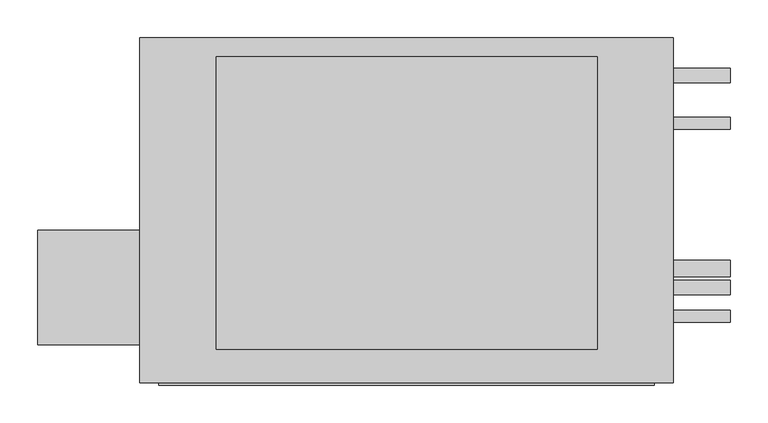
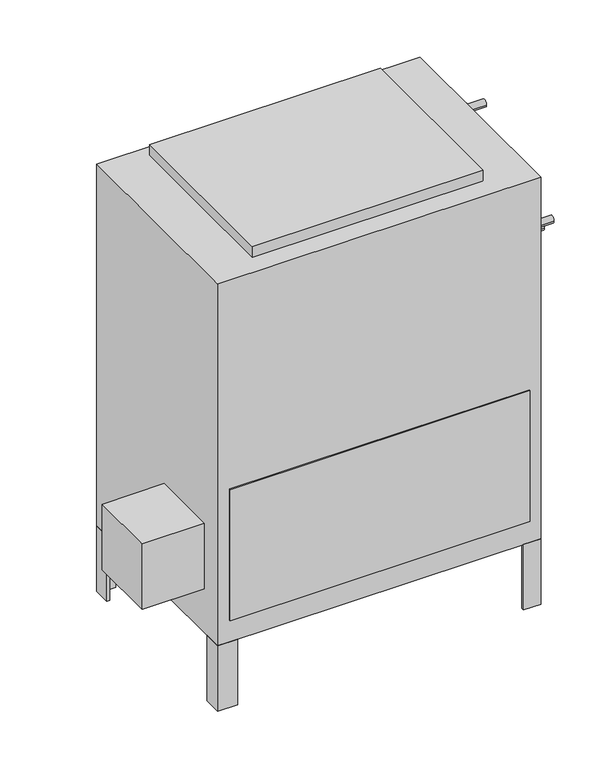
"""IFC4 building model written with IfcOpenShell, lengths in millimetres: proxy geometry, Concealed_High_Capacity_Vertical_Fan_Coil_Unit_-_42DDA_-_CARRIER_-_4-Pipe_RH_2022 : Size 08 - 277v/60Hz/1Ph - 4/2 Coil."""

from ifc_helpers import new_model, si_unit, point, frame, frame_2d, origin, origin_with_axes, place, context, project, spatial, polyline, circle_curve, trimmed, segment, composite_curve, outline, extrude, source, transform, mapped, element, save


def mechanical_equipment_4e46873f(model_context):
    return source(origin(), model_context, "Body", "SweptSolid", [
        extrude(outline(polyline([(-339.725, -417.5125), (-339.725, -265.1125), (-203.2, -265.1125), (-203.2, -417.5125), (-339.725, -417.5125)])), frame((0.0, 0.0, 101.6), z_axis=(0.0, 0.0, 1.0), x_axis=(1.0, 0.0, 0.0)), (0.0, 0.0, 1.0), 152.4),
        extrude(outline(polyline([(508.0, -46.0375), (501.65, -46.0375), (501.65, -14.2875), (469.9, -14.2875), (469.9, -7.9375), (508.0, -7.9375), (508.0, -46.0375)])), frame((0.0, 0.0, -152.4), z_axis=(0.0, 0.0, 1.0), x_axis=(1.0, 0.0, 0.0)), (0.0, 0.0, 1.0), 152.4),
        extrude(outline(polyline([(-165.1, -7.9375), (-165.1, -14.2875), (-196.85, -14.2875), (-196.85, -46.0375), (-203.2, -46.0375), (-203.2, -7.9375), (-165.1, -7.9375)])), frame((0.0, 0.0, -152.4), z_axis=(0.0, 0.0, 1.0), x_axis=(1.0, 0.0, 0.0)), (0.0, 0.0, 1.0), 152.4),
        extrude(outline(polyline([(469.9, -468.3125), (469.9, -461.9625), (501.65, -461.9625), (501.65, -430.2125), (508.0, -430.2125), (508.0, -468.3125), (469.9, -468.3125)])), frame((0.0, 0.0, -152.4), z_axis=(0.0, 0.0, 1.0), x_axis=(1.0, 0.0, 0.0)), (0.0, 0.0, 1.0), 152.4),
        extrude(outline(polyline([(-203.2, -428.1199163), (-196.85, -428.1199163), (-196.85, -461.9625), (-159.7318533, -461.9625), (-159.7318533, -468.3125), (-203.2, -468.3125), (-203.2, -428.1199163)])), frame((0.0, 0.0, -152.4), z_axis=(0.0, 0.0, 1.0), x_axis=(1.0, 0.0, 0.0)), (0.0, 0.0, 1.0), 152.4),
        extrude(outline(polyline([(406.4, -33.3375), (406.4, -423.8625), (-101.6, -423.8625), (-101.6, -33.3375), (406.4, -33.3375)])), frame((0.0, 0.0, 841.375), z_axis=(0.0, 0.0, 1.0), x_axis=(1.0, 0.0, 0.0)), (0.0, 0.0, 1.0), 25.4),
        extrude(outline(polyline([(482.6, -471.4875), (-177.8, -471.4875), (-177.8, -468.3125), (482.6, -468.3125), (482.6, -471.4875)])), frame((0.0, 0.0, 50.8), z_axis=(0.0, 0.0, 1.0), x_axis=(1.0, 0.0, 0.0)), (0.0, 0.0, 1.0), 304.8),
        extrude(outline(composite_curve([segment(trimmed(circle_curve(frame_2d((-122.2375, 777.875)), 7.9375), [point((-114.3, 777.875))], [point((-130.175, 777.875))], False, "CARTESIAN"), True, "CONTINUOUS"), segment(trimmed(circle_curve(frame_2d((-122.2375, 777.875)), 7.9375), [point((-130.175, 777.875))], [point((-114.3, 777.875))], False, "CARTESIAN"), True, "CONTINUOUS")], self_intersect=False)), frame((508.0, 0.0, 0.0), z_axis=(1.0, 0.0, 0.0), x_axis=(0.0, 1.0, 0.0)), (0.0, 0.0, 1.0), 76.2),
        extrude(outline(composite_curve([segment(trimmed(circle_curve(frame_2d((-379.4125, 663.575)), 7.9375), [point((-371.475, 663.575))], [point((-387.35, 663.575))], False, "CARTESIAN"), True, "CONTINUOUS"), segment(trimmed(circle_curve(frame_2d((-379.4125, 663.575)), 7.9375), [point((-387.35, 663.575))], [point((-371.475, 663.575))], False, "CARTESIAN"), True, "CONTINUOUS")], self_intersect=False)), frame((508.0, 0.0, 0.0), z_axis=(1.0, 0.0, 0.0), x_axis=(0.0, 1.0, 0.0)), (0.0, 0.0, 1.0), 76.2),
        extrude(outline(composite_curve([segment(trimmed(circle_curve(frame_2d((-58.7375, 727.075)), 9.525), [point((-49.2125, 727.075))], [point((-68.2625, 727.075))], False, "CARTESIAN"), True, "CONTINUOUS"), segment(trimmed(circle_curve(frame_2d((-58.7375, 727.075)), 9.525), [point((-68.2625, 727.075))], [point((-49.2125, 727.075))], False, "CARTESIAN"), True, "CONTINUOUS")], self_intersect=False)), frame((508.0, 0.0, 0.0), z_axis=(1.0, 0.0, 0.0), x_axis=(0.0, 1.0, 0.0)), (0.0, 0.0, 1.0), 76.2),
        extrude(outline(composite_curve([segment(trimmed(circle_curve(frame_2d((-341.3125, 625.475)), 9.525), [point((-331.7875, 625.475))], [point((-350.8375, 625.475))], False, "CARTESIAN"), True, "CONTINUOUS"), segment(trimmed(circle_curve(frame_2d((-341.3125, 625.475)), 9.525), [point((-350.8375, 625.475))], [point((-331.7875, 625.475))], False, "CARTESIAN"), True, "CONTINUOUS")], self_intersect=False)), frame((508.0, 0.0, 0.0), z_axis=(1.0, 0.0, 0.0), x_axis=(0.0, 1.0, 0.0)), (0.0, 0.0, 1.0), 76.2),
        extrude(outline(composite_curve([segment(trimmed(circle_curve(frame_2d((-315.9125, 536.575)), 11.1125), [point((-304.8, 536.575))], [point((-327.025, 536.575))], False, "CARTESIAN"), True, "CONTINUOUS"), segment(trimmed(circle_curve(frame_2d((-315.9125, 536.575)), 11.1125), [point((-327.025, 536.575))], [point((-304.8, 536.575))], False, "CARTESIAN"), True, "CONTINUOUS")], self_intersect=False)), frame((508.0, 0.0, 0.0), z_axis=(1.0, 0.0, 0.0), x_axis=(0.0, 1.0, 0.0)), (0.0, 0.0, 1.0), 76.2),
        extrude(outline(polyline([(508.0, -7.9375), (508.0, -468.3125), (-203.2, -468.3125), (-203.2, -7.9375), (508.0, -7.9375)])), origin_with_axes(), (0.0, 0.0, 1.0), 841.375),
    ])


if __name__ == "__main__":
    model = new_model("IFC4")
    model_context = context("Model", 3, world=origin())
    ifc_project = project(units=[si_unit("LENGTHUNIT", "METRE", prefix="MILLI")], contexts=[model_context])
    site = spatial("IfcSite", under=ifc_project)
    building = spatial("IfcBuilding", under=site)
    placement = place(None, origin())
    mechanical_equipment_shape = mechanical_equipment_4e46873f(model_context)
    element("IfcBuildingElementProxy", 1, Name="Concealed_High_Capacity_Vertical_Fan_Coil_Unit_-_42DDA_-_CARRIER_-_4-Pipe_RH_2022 : Size 08 - 277v/60Hz/1Ph - 4/2 Coil", ObjectType="Concealed_High_Capacity_Vertical_Fan_Coil_Unit_-_42DDA_-_CARRIER_-_4-Pipe_RH_2022 : Size 08 - 277v/60Hz/1Ph - 4/2 Coil", at=placement, inside=building, context=model_context, shape_type="MappedRepresentation", body=[
        mapped(mechanical_equipment_shape, transform((0.0, 0.0, 0.0), x_axis=(1.0, 0.0, 0.0), y_axis=(0.0, 1.0, 0.0), z_axis=(0.0, 0.0, 1.0))),
    ])
    save(model, "model.ifc")
